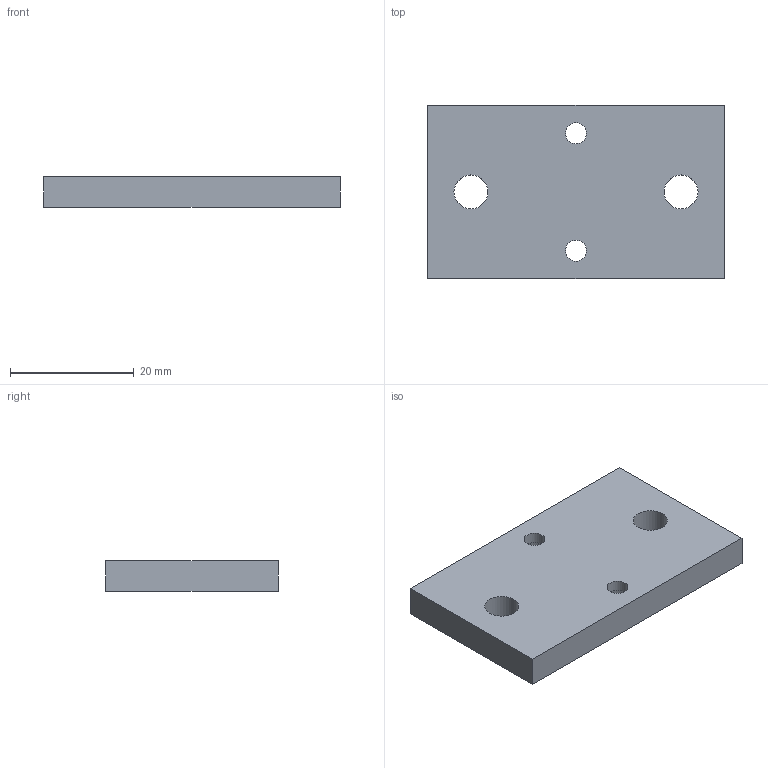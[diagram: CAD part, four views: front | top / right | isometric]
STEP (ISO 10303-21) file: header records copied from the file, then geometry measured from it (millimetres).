
FILE_DESCRIPTION(('Open CASCADE Model'),'2;1');
FILE_NAME('Open CASCADE Shape Model','2026-10-23T08:22:13',('Author'),( 'Open CASCADE'),'Open CASCADE STEP processor 7.9','Open CASCADE 7.9' ,'Unknown');
FILE_SCHEMA(('AUTOMOTIVE_DESIGN { 1 0 10303 214 1 1 1 1 }'));
Length unit declared in the file: millimetre
Products named in the file (1): Open CASCADE STEP translator 7.9 20
Bounding box: 48 x 28 x 5 mm (x, y, z)
Volume: 6237.4 mm3; surface area: 3658.6 mm2
Topology: 1 solids, 1 shells, 14 faces, 30 edges, 20 vertices
Faces by surface type: plane 8, cylinder 6
Full cylindrical faces by diameter (mm): 3.4 x2, 5.5 x2, 6.5 x2
Entity records: 814 total; most frequent: CARTESIAN_POINT 149, DIRECTION 128, LINE 66, VECTOR 66, ORIENTED_EDGE 60, PCURVE 60, DEFINITIONAL_REPRESENTATION 60, EDGE_CURVE 30
